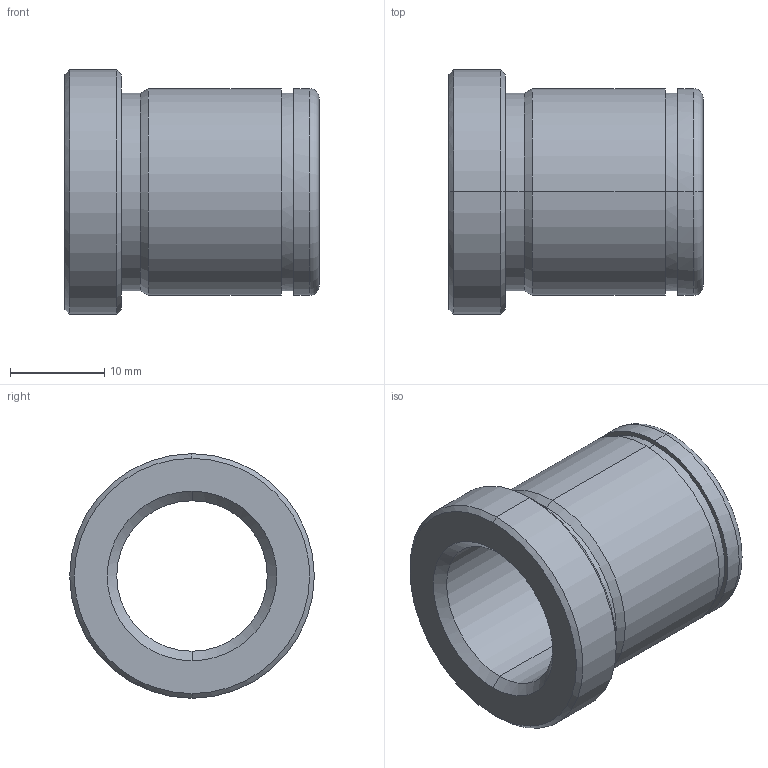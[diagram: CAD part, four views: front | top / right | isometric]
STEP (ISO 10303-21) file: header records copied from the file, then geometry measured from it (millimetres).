
FILE_DESCRIPTION(('CATIA V5 STEP Exchange'),'2;1');
FILE_NAME('C:\Users\Utente\Desktop\IO LAVORO\3D X SITO CF\X SITO\PLASTICA\553\553-16X27.stp','2021-05-21T18:58:43+00:00',('none'),('none'),'CATIA Version 5 Release 20 GA (IN-10)','CATIA V5 STEP AP203','none');
FILE_SCHEMA(('CONFIG_CONTROL_DESIGN'));
Length unit declared in the file: millimetre
Products named in the file (1): 553-16X27
Bounding box: 27 x 26 x 26 mm (x, y, z)
Volume: 5527.3 mm3; surface area: 3918.9 mm2
Topology: 1 solids, 1 shells, 29 faces, 92 edges, 68 vertices
Faces by surface type: cylinder 12, cone 8, plane 5, torus 4
Entity records: 1222 total; most frequent: CARTESIAN_POINT 368, ORIENTED_EDGE 184, DIRECTION 136, EDGE_CURVE 92, AXIS2_PLACEMENT_3D 88, VERTEX_POINT 68, CIRCLE 58, EDGE_LOOP 34
